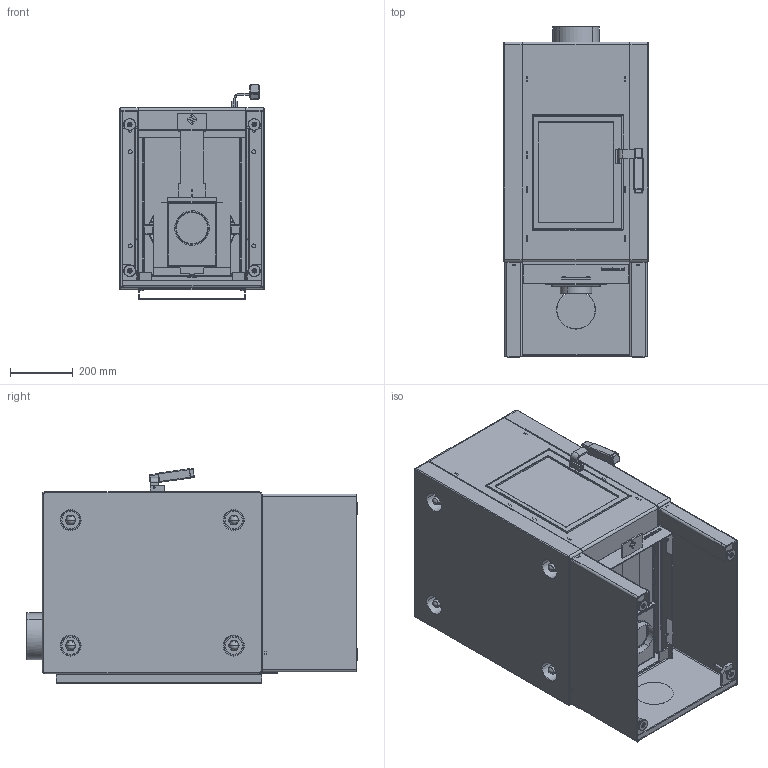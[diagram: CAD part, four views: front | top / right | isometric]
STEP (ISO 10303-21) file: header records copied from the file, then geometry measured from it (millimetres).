
FILE_DESCRIPTION (( 'STEP AP214' ), '1' );
FILE_NAME ('Harrie Leenders Boxer Plus.STEP', '2015-03-05T12:05:27', ( 'Rob' ), ( '' ), 'SwSTEP 2.0', 'SolidWorks 2015', '' );
FILE_SCHEMA (( 'AUTOMOTIVE_DESIGN' ));
Length unit declared in the file: millimetre
Products named in the file (1): Harrie Leenders Boxer Plus
Bounding box: 460 x 1052 x 683.76 mm (x, y, z)
Volume: 82622617.9 mm3; surface area: 9571568.5 mm2
Topology: 74 solids, 74 shells, 2910 faces, 7481 edges, 4751 vertices
Faces by surface type: plane 1565, cylinder 739, cone 331, bspline 173, torus 76, sphere 26
Entity records: 100725 total; most frequent: CARTESIAN_POINT 29978, ORIENTED_EDGE 14874, DIRECTION 13827, EDGE_CURVE 7437, VERTEX_POINT 4747, AXIS2_PLACEMENT_3D 4635, VECTOR 4557, LINE 4557
